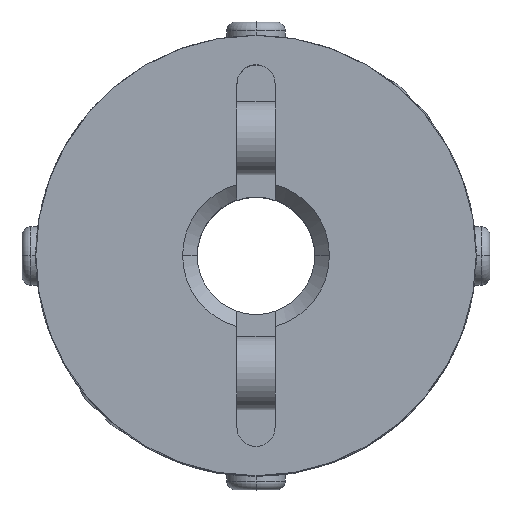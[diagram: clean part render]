
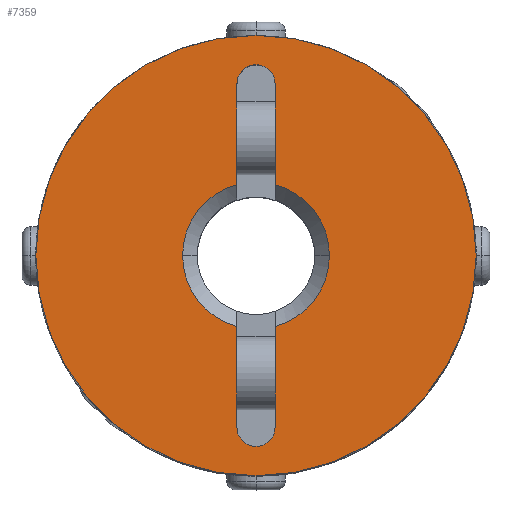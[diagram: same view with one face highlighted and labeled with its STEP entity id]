
A CAD part, top view. The second image highlights one B-rep face of the part: STEP entity #7359.
In plain terms, the highlighted planar face has unit normal (0, 0, 1).
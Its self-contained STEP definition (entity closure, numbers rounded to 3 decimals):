
#1033=CARTESIAN_POINT('',(-7.5,0.,9.0));
#1034=VERTEX_POINT('',#1033);
#1041=CARTESIAN_POINT('',(7.5,0.0,9.0));
#1042=VERTEX_POINT('',#1041);
#1043=CARTESIAN_POINT('',(0.0,0.0,9.0));
#1044=DIRECTION('',(0.0,0.0,-1.0));
#1045=DIRECTION('',(1.0,0.0,0.0));
#1046=AXIS2_PLACEMENT_3D('',#1043,#1044,#1045);
#1047=CIRCLE('',#1046,7.5);
#1048=EDGE_CURVE('',#1034,#1042,#1047,.T.);
#1400=CARTESIAN_POINT('',(2.5,0.,9.0));
#1401=VERTEX_POINT('',#1400);
#1408=CARTESIAN_POINT('',(0.65,2.414,9.0));
#1409=VERTEX_POINT('',#1408);
#1410=CARTESIAN_POINT('',(0.0,0.0,9.0));
#1411=DIRECTION('',(0.0,0.0,1.0));
#1412=DIRECTION('',(-1.0,0.0,0.0));
#1413=AXIS2_PLACEMENT_3D('',#1410,#1411,#1412);
#1414=CIRCLE('',#1413,2.5);
#1415=EDGE_CURVE('',#1401,#1409,#1414,.T.);
#1439=CARTESIAN_POINT('',(-2.5,0.,9.0));
#1440=VERTEX_POINT('',#1439);
#1448=CARTESIAN_POINT('',(-0.65,2.414,9.0));
#1449=VERTEX_POINT('',#1448);
#1463=CARTESIAN_POINT('',(0.0,0.0,9.0));
#1464=DIRECTION('',(0.0,0.0,1.0));
#1465=DIRECTION('',(-1.0,0.0,0.0));
#1466=AXIS2_PLACEMENT_3D('',#1463,#1464,#1465);
#1467=CIRCLE('',#1466,2.5);
#1468=EDGE_CURVE('',#1449,#1440,#1467,.T.);
#1478=CARTESIAN_POINT('',(0.46,6.31,9.0));
#1479=VERTEX_POINT('',#1478);
#1488=CARTESIAN_POINT('',(-0.65,5.85,9.0));
#1489=VERTEX_POINT('',#1488);
#1490=CARTESIAN_POINT('',(0.,5.85,9.0));
#1491=DIRECTION('',(0.0,0.0,1.0));
#1492=DIRECTION('',(0.707,0.707,0.0));
#1493=AXIS2_PLACEMENT_3D('',#1490,#1491,#1492);
#1494=CIRCLE('',#1493,0.65);
#1495=EDGE_CURVE('',#1479,#1489,#1494,.T.);
#1520=CARTESIAN_POINT('',(0.46,-6.31,9.0));
#1521=VERTEX_POINT('',#1520);
#1530=CARTESIAN_POINT('',(0.65,-5.85,9.0));
#1531=VERTEX_POINT('',#1530);
#1532=CARTESIAN_POINT('',(0.,-5.85,9.0));
#1533=DIRECTION('',(0.0,0.0,1.0));
#1534=DIRECTION('',(-0.707,-0.707,0.0));
#1535=AXIS2_PLACEMENT_3D('',#1532,#1533,#1534);
#1536=CIRCLE('',#1535,0.65);
#1537=EDGE_CURVE('',#1521,#1531,#1536,.T.);
#7085=CARTESIAN_POINT('',(-0.65,-5.85,9.0));
#7086=VERTEX_POINT('',#7085);
#7093=CARTESIAN_POINT('',(0.,-5.85,9.0));
#7094=DIRECTION('',(0.0,0.0,1.0));
#7095=DIRECTION('',(-0.707,-0.707,0.0));
#7096=AXIS2_PLACEMENT_3D('',#7093,#7094,#7095);
#7097=CIRCLE('',#7096,0.65);
#7098=EDGE_CURVE('',#7086,#1521,#7097,.T.);
#7109=CARTESIAN_POINT('',(0.65,-2.414,9.0));
#7110=VERTEX_POINT('',#7109);
#7111=CARTESIAN_POINT('',(0.65,-2.414,9.0));
#7112=DIRECTION('',(0.0,-1.0,0.0));
#7113=VECTOR('',#7112,3.436);
#7114=LINE('',#7111,#7113);
#7115=EDGE_CURVE('',#7110,#1531,#7114,.T.);
#7158=CARTESIAN_POINT('',(-0.65,2.414,9.0));
#7159=DIRECTION('',(0.0,1.0,0.0));
#7160=VECTOR('',#7159,3.436);
#7161=LINE('',#7158,#7160);
#7162=EDGE_CURVE('',#1449,#1489,#7161,.T.);
#7209=CARTESIAN_POINT('',(0.65,5.85,9.0));
#7210=VERTEX_POINT('',#7209);
#7217=CARTESIAN_POINT('',(0.,5.85,9.0));
#7218=DIRECTION('',(0.0,0.0,1.0));
#7219=DIRECTION('',(0.707,0.707,0.0));
#7220=AXIS2_PLACEMENT_3D('',#7217,#7218,#7219);
#7221=CIRCLE('',#7220,0.65);
#7222=EDGE_CURVE('',#7210,#1479,#7221,.T.);
#7256=CARTESIAN_POINT('',(0.65,5.85,9.0));
#7257=DIRECTION('',(0.0,-1.0,0.0));
#7258=VECTOR('',#7257,3.436);
#7259=LINE('',#7256,#7258);
#7260=EDGE_CURVE('',#7210,#1409,#7259,.T.);
#7290=CARTESIAN_POINT('',(-0.65,-2.414,9.0));
#7291=VERTEX_POINT('',#7290);
#7305=CARTESIAN_POINT('',(-0.65,-5.85,9.0));
#7306=DIRECTION('',(0.0,1.0,0.0));
#7307=VECTOR('',#7306,3.436);
#7308=LINE('',#7305,#7307);
#7309=EDGE_CURVE('',#7086,#7291,#7308,.T.);
#7318=CARTESIAN_POINT('',(0.682,0.,9.0));
#7319=DIRECTION('',(0.0,0.0,1.0));
#7320=DIRECTION('',(1.0,0.0,0.0));
#7321=AXIS2_PLACEMENT_3D('',#7318,#7319,#7320);
#7322=PLANE('',#7321);
#7323=CARTESIAN_POINT('',(0.0,0.0,9.0));
#7324=DIRECTION('',(0.0,0.0,-1.0));
#7325=DIRECTION('',(1.0,0.0,0.0));
#7326=AXIS2_PLACEMENT_3D('',#7323,#7324,#7325);
#7327=CIRCLE('',#7326,7.5);
#7328=EDGE_CURVE('',#1042,#1034,#7327,.T.);
#7329=ORIENTED_EDGE('',*,*,#7328,.F.);
#7330=ORIENTED_EDGE('',*,*,#1048,.F.);
#7331=EDGE_LOOP('',(#7329,#7330));
#7332=FACE_OUTER_BOUND('',#7331,.T.);
#7333=ORIENTED_EDGE('',*,*,#7115,.T.);
#7334=ORIENTED_EDGE('',*,*,#1537,.F.);
#7335=ORIENTED_EDGE('',*,*,#7098,.F.);
#7336=ORIENTED_EDGE('',*,*,#7309,.T.);
#7337=CARTESIAN_POINT('',(0.0,0.0,9.0));
#7338=DIRECTION('',(0.0,0.0,1.0));
#7339=DIRECTION('',(-1.0,0.0,0.0));
#7340=AXIS2_PLACEMENT_3D('',#7337,#7338,#7339);
#7341=CIRCLE('',#7340,2.5);
#7342=EDGE_CURVE('',#1440,#7291,#7341,.T.);
#7343=ORIENTED_EDGE('',*,*,#7342,.F.);
#7344=ORIENTED_EDGE('',*,*,#1468,.F.);
#7345=ORIENTED_EDGE('',*,*,#7162,.T.);
#7346=ORIENTED_EDGE('',*,*,#1495,.F.);
#7347=ORIENTED_EDGE('',*,*,#7222,.F.);
#7348=ORIENTED_EDGE('',*,*,#7260,.T.);
#7349=ORIENTED_EDGE('',*,*,#1415,.F.);
#7350=CARTESIAN_POINT('',(0.0,0.0,9.0));
#7351=DIRECTION('',(0.0,0.0,1.0));
#7352=DIRECTION('',(-1.0,0.0,0.0));
#7353=AXIS2_PLACEMENT_3D('',#7350,#7351,#7352);
#7354=CIRCLE('',#7353,2.5);
#7355=EDGE_CURVE('',#7110,#1401,#7354,.T.);
#7356=ORIENTED_EDGE('',*,*,#7355,.F.);
#7357=EDGE_LOOP('',(#7333,#7334,#7335,#7336,#7343,#7344,#7345,#7346,#7347,#7348,#7349,#7356));
#7358=FACE_BOUND('',#7357,.T.);
#7359=ADVANCED_FACE('',(#7332,#7358),#7322,.T.);
